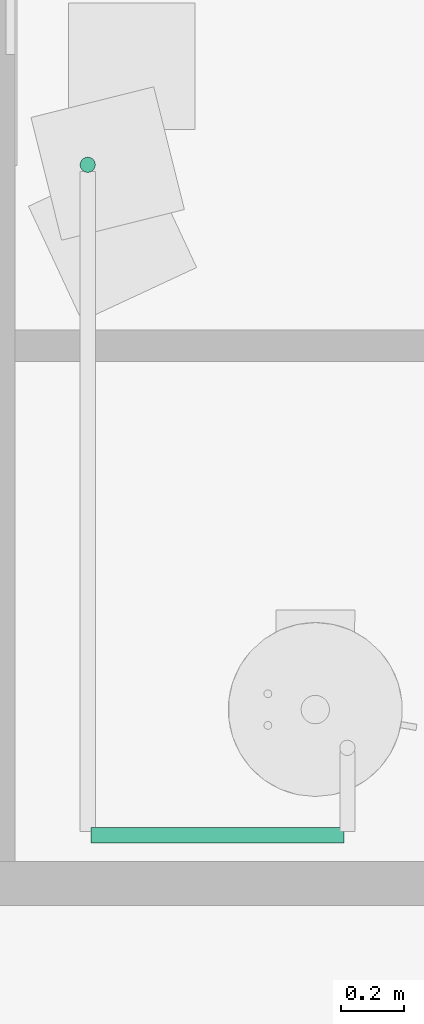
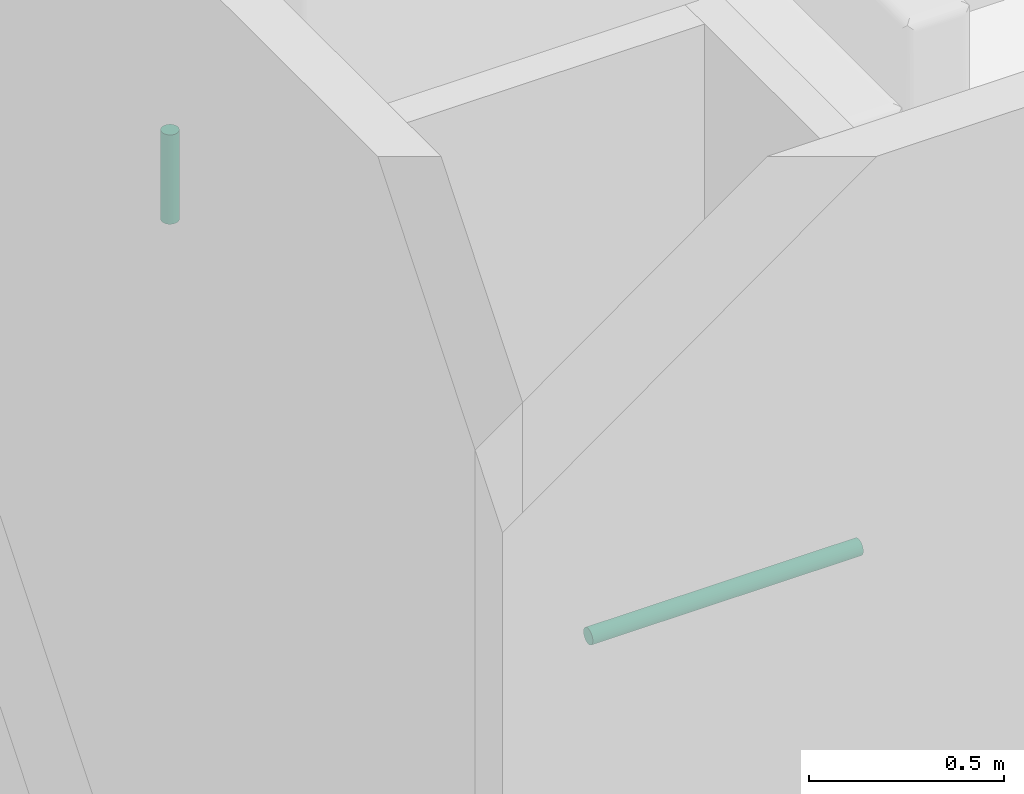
# One storey, part 45 of 71: 2 pipe segments.
"""IFC4 building model written with IfcOpenShell, lengths in centimetres."""

from ifc_helpers import new_model, entity, si_unit, converted_unit, derived_unit, direction, frame, origin, place, context, subcontext, project, spatial, arc, indexed_curve, outline, extrude, type_object, element, save


model = new_model("IFC4")

# Units and contexts
model_context = context("Model", 3, precision=0.001, world=origin(), true_north=direction((6.123233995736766e-17, 1.0)))
body_context = subcontext(model_context, "Body", "Model", "MODEL_VIEW")
ifc_project = project(units=[si_unit("LENGTHUNIT", "METRE", prefix="CENTI"), si_unit("AREAUNIT", "SQUARE_METRE"), si_unit("VOLUMEUNIT", "CUBIC_METRE"), derived_unit("THERMALTRANSMITTANCEUNIT", [(si_unit("MASSUNIT", "GRAM", prefix="KILO"), 1), (si_unit("THERMODYNAMICTEMPERATUREUNIT", "KELVIN"), -1), (si_unit("TIMEUNIT", "SECOND"), -3)]), converted_unit("PLANEANGLEUNIT", "DEGREE", entity("IfcPlaneAngleMeasure", 0.017453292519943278), si_unit("PLANEANGLEUNIT", "RADIAN"), dimensions=[0, 0, 0, 0, 0, 0, 0]), derived_unit("MASSDENSITYUNIT", [(si_unit("MASSUNIT", "GRAM", prefix="KILO"), 1), (si_unit("LENGTHUNIT", "METRE"), -3)]), derived_unit("VAPORPERMEABILITYUNIT", [(si_unit("LENGTHUNIT", "METRE"), -1), (si_unit("TIMEUNIT", "SECOND"), 1)]), derived_unit("USERDEFINED", [(si_unit("MASSUNIT", "GRAM", prefix="KILO"), 1), (si_unit("TIMEUNIT", "SECOND"), -3), (si_unit("LENGTHUNIT", "METRE"), 3), (si_unit("ELECTRICCURRENTUNIT", "AMPERE"), -2)]), derived_unit("SPECIFICHEATCAPACITYUNIT", [(si_unit("THERMODYNAMICTEMPERATUREUNIT", "KELVIN"), -1), (si_unit("LENGTHUNIT", "METRE"), 2), (si_unit("TIMEUNIT", "SECOND"), -2)]), derived_unit("THERMALCONDUCTANCEUNIT", [(si_unit("MASSUNIT", "GRAM", prefix="KILO"), 1), (si_unit("THERMODYNAMICTEMPERATUREUNIT", "KELVIN"), -1), (si_unit("TIMEUNIT", "SECOND"), -3), (si_unit("LENGTHUNIT", "METRE"), 1)]), si_unit("PRESSUREUNIT", "PASCAL"), derived_unit("MODULUSOFELASTICITYUNIT", [(si_unit("MASSUNIT", "GRAM", prefix="KILO"), 1), (si_unit("LENGTHUNIT", "METRE"), -1), (si_unit("TIMEUNIT", "SECOND"), -2)]), derived_unit("THERMALEXPANSIONCOEFFICIENTUNIT", [(si_unit("THERMODYNAMICTEMPERATUREUNIT", "KELVIN"), -1)])], contexts=[model_context])

# Site, building, storey
site_placement = place(None, origin())
site = spatial("IfcSite", under=ifc_project, at=site_placement, Name="Default", CompositionType="ELEMENT")
building_placement = place(site_placement, origin())
building = spatial("IfcBuilding", under=site, at=building_placement, Name="IDS Escape Game Building", CompositionType="ELEMENT")
storey_placement = place(building_placement, frame((0.0, 0.0, 400.0)))
storey = spatial("IfcBuildingStorey", under=building, at=storey_placement, Name="01_First Floor", CompositionType="ELEMENT", Elevation=399.99999999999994)

# Pipe segments
pipe_segment_type = type_object("IfcPipeSegmentType", Name="Pipe Types:Piping Aluminum", PredefinedType="NOTDEFINED")
pipe_segment_1_placement = place(storey_placement, origin())
element("IfcPipeSegment", 1, at=pipe_segment_1_placement, inside=storey, type_object=pipe_segment_type, Name="Pipe Types:Piping Aluminum", ObjectType="Pipe Types:Piping Aluminum", PredefinedType="NOTDEFINED", context=body_context, shape_type="SweptSolid", body=[
    extrude(outline(indexed_curve([(2.412999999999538, -2.165734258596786e-13), (1.7062486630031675, 1.7062486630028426), (4.331468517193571e-13, 2.4130000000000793), (-1.706248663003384, 1.7062486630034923), (-2.4130000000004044, -2.165734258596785e-13), (-1.7062486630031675, -1.7062486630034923), (4.3314685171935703e-13, -2.412999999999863), (1.7062486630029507, -1.7062486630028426)], segments=[arc(1, 2, 3), arc(3, 4, 5), arc(5, 6, 7), arc(7, 8, 1)], self_intersect=False)), frame((2983.146716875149, 1297.2648279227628, 242.0), z_axis=(1.0, 0.0, 0.0), x_axis=(0.0, 1.0, 0.0)), (0.0, 0.0, 1.0), 79.90328312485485),
])
pipe_segment_2_placement = place(storey_placement, origin())
element("IfcPipeSegment", 2, at=pipe_segment_2_placement, inside=storey, type_object=pipe_segment_type, Name="Pipe Types:Piping Aluminum", ObjectType="Pipe Types:Piping Aluminum", PredefinedType="NOTDEFINED", context=body_context, shape_type="SweptSolid", body=[
    extrude(outline(indexed_curve([(2.412999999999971, 0.0), (1.7062486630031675, 1.7062486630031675), (0.0, 2.412999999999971), (-1.7062486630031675, 1.7062486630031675), (-2.412999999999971, 0.0), (-1.7062486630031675, -1.7062486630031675), (0.0, -2.412999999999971), (1.7062486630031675, -1.7062486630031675)], segments=[arc(1, 2, 3), arc(3, 4, 5), arc(5, 6, 7), arc(7, 8, 1)], self_intersect=False)), frame((2982.0467168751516, 1509.2648279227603, 244.09999999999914), z_axis=(0.0, 0.0, 1.0), x_axis=(-1.0, 0.0, 0.0)), (0.0, 0.0, 1.0), 27.900000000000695),
])

save(model, "model.ifc")
